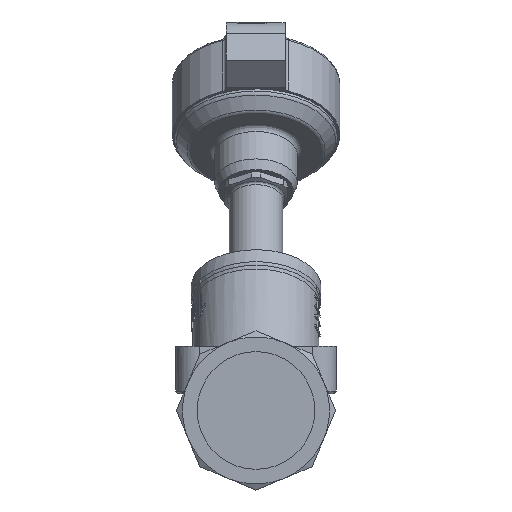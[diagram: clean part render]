
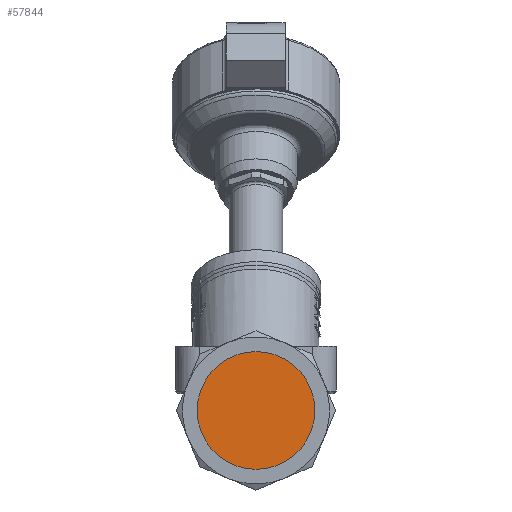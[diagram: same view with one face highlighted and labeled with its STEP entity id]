
A CAD part, left-side view. The second image highlights one B-rep face of the part: STEP entity #57844.
In plain terms, the highlighted free-form (B-spline) face has degree [1, 1] with [2, 2] control points.
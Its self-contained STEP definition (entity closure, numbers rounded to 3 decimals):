
#57824=CARTESIAN_POINT('',(-100.,-22.423,0.));
#57825=VERTEX_POINT('',#57824);
#57826=CARTESIAN_POINT('',(-100.,0.,0.));
#57827=DIRECTION('',(-1.0,0.0,0.0));
#57828=DIRECTION('',(0.0,-1.0,0.0));
#57829=AXIS2_PLACEMENT_3D('',#57826,#57827,#57828);
#57830=CIRCLE('',#57829,22.422);
#57831=EDGE_CURVE('',#57825,#57825,#57830,.T.);
#57836=CARTESIAN_POINT('',(-100.,22.422,22.423));
#57837=CARTESIAN_POINT('',(-100.,-22.423,22.423));
#57838=CARTESIAN_POINT('',(-100.,22.422,-22.422));
#57839=CARTESIAN_POINT('',(-100.,-22.423,-22.422));
#57840=B_SPLINE_SURFACE_WITH_KNOTS('',1,1,((#57836,#57838),(#57837,#57839)),.UNSPECIFIED.,.F.,.F.,.U.,(2,2),(2,2),(0.0,44.845),(0.0,44.845),.UNSPECIFIED.);
#57841=ORIENTED_EDGE('',*,*,#57831,.T.);
#57842=EDGE_LOOP('',(#57841));
#57843=FACE_OUTER_BOUND('',#57842,.T.);
#57844=ADVANCED_FACE('',(#57843),#57840,.F.);
